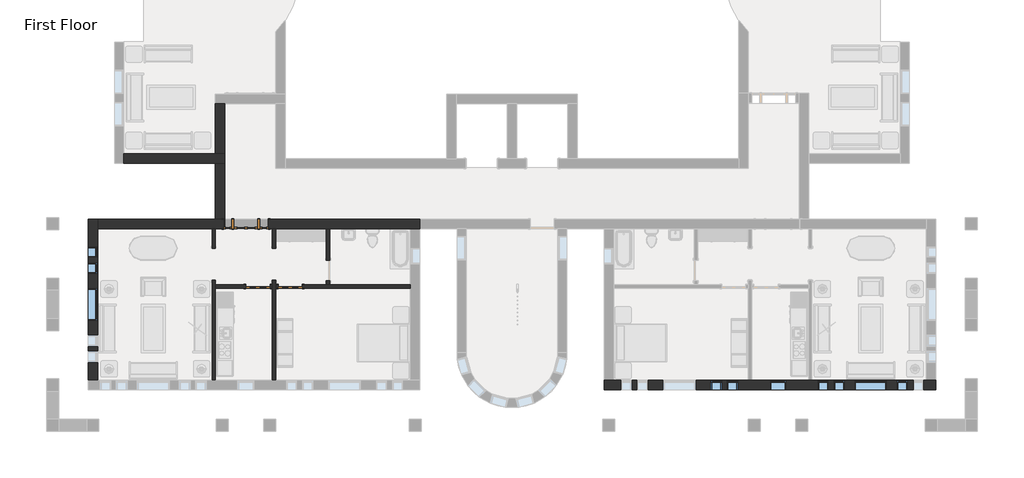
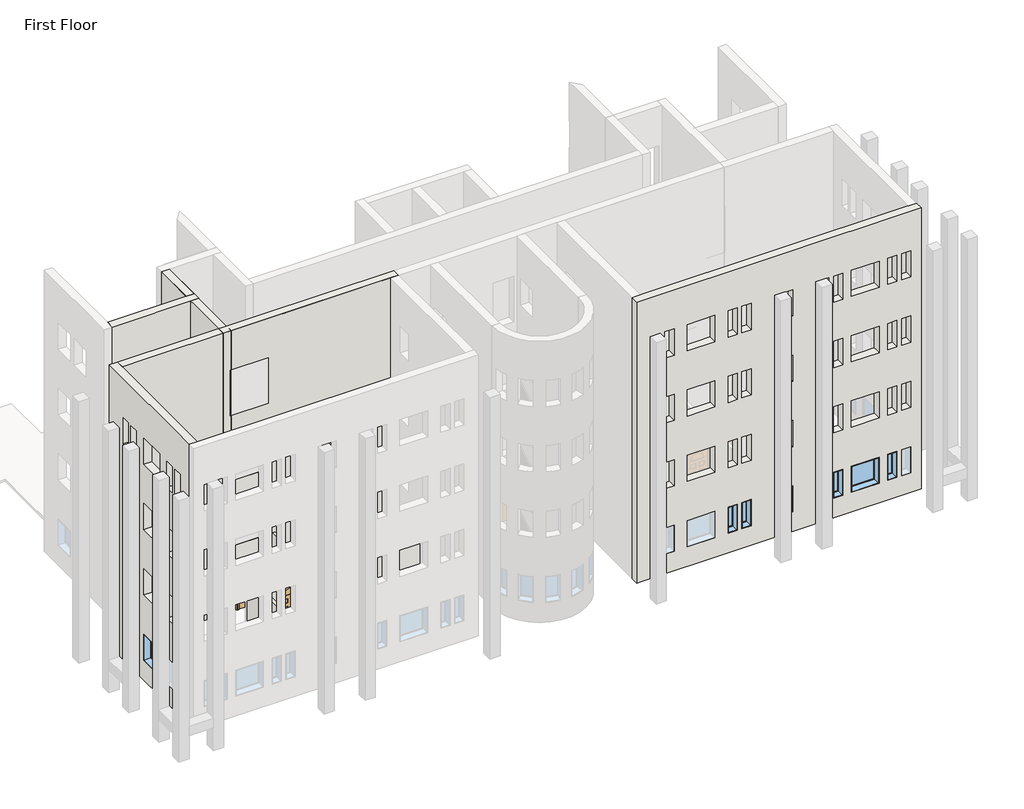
# One storey, part 3 of 21: 11 walls, 10 windows, 3 doors.
"""IFC4 building model written with IfcOpenShell, lengths in millimetres."""

from ifc_helpers import new_model, si_unit, frame, origin, origin_with_axes, place, context, project, spatial, polyline, outline, extrude, faceted_brep, transform, mapped, element, save
from components import door_829da954, door_2e3b4da2, door_dba5aa2e, window_da97879f, window_d61ef850, window_ed80354a, window_6eb97611, window_d89bf842

model = new_model("IFC4")

# Units and contexts
model_context = context("Model", 3, world=origin())
ifc_project = project(units=[si_unit("LENGTHUNIT", "METRE", prefix="MILLI")], contexts=[model_context])

# Site, building, storey
site = spatial("IfcSite", under=ifc_project)
building = spatial("IfcBuilding", under=site)
storey = spatial("IfcBuildingStorey", under=building, Name="First Floor", Elevation=0.0)

# Doors
placement = place(None, origin())
door_shape = door_829da954(model_context)
element("IfcDoor", 1, ObjectType="Single-Decorative 2 : 36\" x 84\"", at=placement, inside=storey, context=model_context, shape_type="MappedRepresentation", body=[
    mapped(door_shape, transform((-24674.4839563, -30414.4308133, 0.0), x_axis=(1.0, 0.0, 0.0), y_axis=(0.0, 1.0, 0.0), z_axis=(0.0, 0.0, 1.0))),
])
door_2_shape = door_2e3b4da2(model_context)
element("IfcDoor", 2, ObjectType="Single-Decorative 2 : 36\" x 84\"", at=placement, inside=storey, context=model_context, shape_type="MappedRepresentation", body=[
    mapped(door_2_shape, transform((-23455.2839563, -30414.4308133, 0.0), x_axis=(-1.0, 0.0, 0.0), y_axis=(0.0, -1.0, 0.0), z_axis=(0.0, 0.0, 1.0))),
])
door_3_shape = door_dba5aa2e(model_context)
element("IfcDoor", 3, ObjectType="Single-Raised Panel with Sidelights : 36\" x 84\"", at=placement, inside=storey, context=model_context, shape_type="MappedRepresentation", body=[
    mapped(door_3_shape, transform((-25131.6839563, -28041.1183133, 0.0), x_axis=(1.0, 0.0, 0.0), y_axis=(0.0, 1.0, 0.0), z_axis=(0.0, 0.0, 1.0))),
])

# Walls
element("IfcWall", 4, ObjectType="Exterior - Brick on Mtl. Stud", at=placement, inside=storey, context=model_context, shape_type="Brep", body=[
    faceted_brep([(-11569.6714563, -34313.3308133, 0.0), (-11382.3464563, -34313.3308133, 0.0), (787.4285437, -34313.3308133, 0.0), (974.7535437, -34313.3308133, 0.0), (974.7535437, -34313.3308133, 13106.4), (-11569.6714563, -34313.3308133, 13106.4), (-90.4589563, -34313.3308133, 8229.6), (-90.4589563, -34313.3308133, 7010.4), (-496.8589563, -34313.3308133, 7010.4), (-496.8589563, -34313.3308133, 8229.6), (519.1410437, -34313.3308133, 8229.6), (519.1410437, -34313.3308133, 7010.4), (112.7410437, -34313.3308133, 7010.4), (112.7410437, -34313.3308133, 8229.6), (-2884.4589563, -34313.3308133, 8229.6), (-2478.0589563, -34313.3308133, 8229.6), (-2478.0589563, -34313.3308133, 7010.4), (-2884.4589563, -34313.3308133, 7010.4), (-3494.0589563, -34313.3308133, 8229.6), (-3087.6589563, -34313.3308133, 8229.6), (-3087.6589563, -34313.3308133, 7010.4), (-3494.0589563, -34313.3308133, 7010.4), (-7126.2589563, -34313.3308133, 8229.6), (-7126.2589563, -34313.3308133, 7010.4), (-7532.6589563, -34313.3308133, 7010.4), (-7532.6589563, -34313.3308133, 8229.6), (-6516.6589563, -34313.3308133, 8229.6), (-6516.6589563, -34313.3308133, 7010.4), (-6923.0589563, -34313.3308133, 7010.4), (-6923.0589563, -34313.3308133, 8229.6), (-10326.6589563, -34313.3308133, 8229.6), (-9920.2589563, -34313.3308133, 8229.6), (-9920.2589563, -34313.3308133, 7010.4), (-10326.6589563, -34313.3308133, 7010.4), (-10936.2589563, -34313.3308133, 8229.6), (-10529.8589563, -34313.3308133, 8229.6), (-10529.8589563, -34313.3308133, 7010.4), (-10936.2589563, -34313.3308133, 7010.4), (-2097.0589563, -34313.3308133, 8229.6), (-877.8589563, -34313.3308133, 8229.6), (-877.8589563, -34313.3308133, 7010.4), (-2097.0589563, -34313.3308133, 7010.4), (-9336.0589563, -34313.3308133, 8229.6), (-8116.8589563, -34313.3308133, 8229.6), (-8116.8589563, -34313.3308133, 7010.4), (-9336.0589563, -34313.3308133, 7010.4), (-5297.4589563, -34313.3308133, 8229.6), (-4687.8589563, -34313.3308133, 8229.6), (-4687.8589563, -34313.3308133, 7010.4), (-5297.4589563, -34313.3308133, 7010.4), (-90.4589563, -34313.3308133, 5181.6), (-90.4589563, -34313.3308133, 3962.4), (-496.8589563, -34313.3308133, 3962.4), (-496.8589563, -34313.3308133, 5181.6), (519.1410437, -34313.3308133, 5181.6), (519.1410437, -34313.3308133, 3962.4), (112.7410437, -34313.3308133, 3962.4), (112.7410437, -34313.3308133, 5181.6), (-2884.4589563, -34313.3308133, 5181.6), (-2478.0589563, -34313.3308133, 5181.6), (-2478.0589563, -34313.3308133, 3962.4), (-2884.4589563, -34313.3308133, 3962.4), (-3494.0589563, -34313.3308133, 5181.6), (-3087.6589563, -34313.3308133, 5181.6), (-3087.6589563, -34313.3308133, 3962.4), (-3494.0589563, -34313.3308133, 3962.4), (-7126.2589563, -34313.3308133, 5181.6), (-7126.2589563, -34313.3308133, 3962.4), (-7532.6589563, -34313.3308133, 3962.4), (-7532.6589563, -34313.3308133, 5181.6), (-6516.6589563, -34313.3308133, 5181.6), (-6516.6589563, -34313.3308133, 3962.4), (-6923.0589563, -34313.3308133, 3962.4), (-6923.0589563, -34313.3308133, 5181.6), (-10326.6589563, -34313.3308133, 5181.6), (-9920.2589563, -34313.3308133, 5181.6), (-9920.2589563, -34313.3308133, 3962.4), (-10326.6589563, -34313.3308133, 3962.4), (-10936.2589563, -34313.3308133, 5181.6), (-10529.8589563, -34313.3308133, 5181.6), (-10529.8589563, -34313.3308133, 3962.4), (-10936.2589563, -34313.3308133, 3962.4), (-2097.0589563, -34313.3308133, 5181.6), (-877.8589563, -34313.3308133, 5181.6), (-877.8589563, -34313.3308133, 3962.4), (-2097.0589563, -34313.3308133, 3962.4), (-9336.0589563, -34313.3308133, 5181.6), (-8116.8589563, -34313.3308133, 5181.6), (-8116.8589563, -34313.3308133, 3962.4), (-9336.0589563, -34313.3308133, 3962.4), (-5297.4589563, -34313.3308133, 5181.6), (-4687.8589563, -34313.3308133, 5181.6), (-4687.8589563, -34313.3308133, 3962.4), (-5297.4589563, -34313.3308133, 3962.4), (-90.4589563, -34313.3308133, 11277.6), (-90.4589563, -34313.3308133, 10058.4), (-496.8589563, -34313.3308133, 10058.4), (-496.8589563, -34313.3308133, 11277.6), (519.1410437, -34313.3308133, 11277.6), (519.1410437, -34313.3308133, 10058.4), (112.7410437, -34313.3308133, 10058.4), (112.7410437, -34313.3308133, 11277.6), (-2884.4589563, -34313.3308133, 11277.6), (-2478.0589563, -34313.3308133, 11277.6), (-2478.0589563, -34313.3308133, 10058.4), (-2884.4589563, -34313.3308133, 10058.4), (-3494.0589563, -34313.3308133, 11277.6), (-3087.6589563, -34313.3308133, 11277.6), (-3087.6589563, -34313.3308133, 10058.4), (-3494.0589563, -34313.3308133, 10058.4), (-7126.2589563, -34313.3308133, 11277.6), (-7126.2589563, -34313.3308133, 10058.4), (-7532.6589563, -34313.3308133, 10058.4), (-7532.6589563, -34313.3308133, 11277.6), (-6516.6589563, -34313.3308133, 11277.6), (-6516.6589563, -34313.3308133, 10058.4), (-6923.0589563, -34313.3308133, 10058.4), (-6923.0589563, -34313.3308133, 11277.6), (-10326.6589563, -34313.3308133, 11277.6), (-9920.2589563, -34313.3308133, 11277.6), (-9920.2589563, -34313.3308133, 10058.4), (-10326.6589563, -34313.3308133, 10058.4), (-10936.2589563, -34313.3308133, 11277.6), (-10529.8589563, -34313.3308133, 11277.6), (-10529.8589563, -34313.3308133, 10058.4), (-10936.2589563, -34313.3308133, 10058.4), (-2097.0589563, -34313.3308133, 11277.6), (-877.8589563, -34313.3308133, 11277.6), (-877.8589563, -34313.3308133, 10058.4), (-2097.0589563, -34313.3308133, 10058.4), (-9336.0589563, -34313.3308133, 11277.6), (-8116.8589563, -34313.3308133, 11277.6), (-8116.8589563, -34313.3308133, 10058.4), (-9336.0589563, -34313.3308133, 10058.4), (-5297.4589563, -34313.3308133, 11277.6), (-4687.8589563, -34313.3308133, 11277.6), (-4687.8589563, -34313.3308133, 10058.4), (-5297.4589563, -34313.3308133, 10058.4), (-90.4589563, -34313.3308133, 2133.6), (-90.4589563, -34313.3308133, 914.4), (-496.8589563, -34313.3308133, 914.4), (-496.8589563, -34313.3308133, 2133.6), (519.1410437, -34313.3308133, 2133.6), (519.1410437, -34313.3308133, 914.4), (112.7410437, -34313.3308133, 914.4), (112.7410437, -34313.3308133, 2133.6), (-2884.4589563, -34313.3308133, 2133.6), (-2478.0589563, -34313.3308133, 2133.6), (-2478.0589563, -34313.3308133, 914.4), (-2884.4589563, -34313.3308133, 914.4), (-3494.0589563, -34313.3308133, 2133.6), (-3087.6589563, -34313.3308133, 2133.6), (-3087.6589563, -34313.3308133, 914.4), (-3494.0589563, -34313.3308133, 914.4), (-7126.2589563, -34313.3308133, 2133.6), (-7126.2589563, -34313.3308133, 914.4), (-7532.6589563, -34313.3308133, 914.4), (-7532.6589563, -34313.3308133, 2133.6), (-6516.6589563, -34313.3308133, 2133.6), (-6516.6589563, -34313.3308133, 914.4), (-6923.0589563, -34313.3308133, 914.4), (-6923.0589563, -34313.3308133, 2133.6), (-10326.6589563, -34313.3308133, 2133.6), (-9920.2589563, -34313.3308133, 2133.6), (-9920.2589563, -34313.3308133, 914.4), (-10326.6589563, -34313.3308133, 914.4), (-10936.2589563, -34313.3308133, 2133.6), (-10529.8589563, -34313.3308133, 2133.6), (-10529.8589563, -34313.3308133, 914.4), (-10936.2589563, -34313.3308133, 914.4), (-2097.0589563, -34313.3308133, 2133.6), (-877.8589563, -34313.3308133, 2133.6), (-877.8589563, -34313.3308133, 914.4), (-2097.0589563, -34313.3308133, 914.4), (-9336.0589563, -34313.3308133, 2133.6), (-8116.8589563, -34313.3308133, 2133.6), (-8116.8589563, -34313.3308133, 914.4), (-9336.0589563, -34313.3308133, 914.4), (-5297.4589563, -34313.3308133, 2133.6), (-4687.8589563, -34313.3308133, 2133.6), (-4687.8589563, -34313.3308133, 914.4), (-5297.4589563, -34313.3308133, 914.4), (-11569.6714563, -33960.9058133, 0.0), (-11569.6714563, -33960.9058133, 13106.4), (-11217.2464563, -33960.9058133, 13106.4), (622.3285437, -33960.9058133, 13106.4), (974.7535437, -33960.9058133, 13106.4), (974.7535437, -33960.9058133, 0.0), (787.4285437, -33960.9058133, 0.0), (622.3285437, -33960.9058133, 0.0), (-3709.9589563, -33960.9058133, 0.0), (-3836.9589563, -33960.9058133, 0.0), (-5995.9589563, -33960.9058133, 0.0), (-6122.9589563, -33960.9058133, 0.0), (-11217.2464563, -33960.9058133, 0.0), (-11382.3464563, -33960.9058133, 0.0), (-90.4589563, -33960.9058133, 8229.6), (-496.8589563, -33960.9058133, 8229.6), (-496.8589563, -33960.9058133, 7010.4), (-90.4589563, -33960.9058133, 7010.4), (519.1410437, -33960.9058133, 8229.6), (112.7410437, -33960.9058133, 8229.6), (112.7410437, -33960.9058133, 7010.4), (519.1410437, -33960.9058133, 7010.4), (-2884.4589563, -33960.9058133, 8229.6), (-2884.4589563, -33960.9058133, 7010.4), (-2478.0589563, -33960.9058133, 7010.4), (-2478.0589563, -33960.9058133, 8229.6), (-3494.0589563, -33960.9058133, 8229.6), (-3494.0589563, -33960.9058133, 7010.4), (-3087.6589563, -33960.9058133, 7010.4), (-3087.6589563, -33960.9058133, 8229.6), (-7126.2589563, -33960.9058133, 8229.6), (-7532.6589563, -33960.9058133, 8229.6), (-7532.6589563, -33960.9058133, 7010.4), (-7126.2589563, -33960.9058133, 7010.4), (-6516.6589563, -33960.9058133, 8229.6), (-6923.0589563, -33960.9058133, 8229.6), (-6923.0589563, -33960.9058133, 7010.4), (-6516.6589563, -33960.9058133, 7010.4), (-10326.6589563, -33960.9058133, 8229.6), (-10326.6589563, -33960.9058133, 7010.4), (-9920.2589563, -33960.9058133, 7010.4), (-9920.2589563, -33960.9058133, 8229.6), (-10936.2589563, -33960.9058133, 8229.6), (-10936.2589563, -33960.9058133, 7010.4), (-10529.8589563, -33960.9058133, 7010.4), (-10529.8589563, -33960.9058133, 8229.6), (-2097.0589563, -33960.9058133, 8229.6), (-2097.0589563, -33960.9058133, 7010.4), (-877.8589563, -33960.9058133, 7010.4), (-877.8589563, -33960.9058133, 8229.6), (-9336.0589563, -33960.9058133, 8229.6), (-9336.0589563, -33960.9058133, 7010.4), (-8116.8589563, -33960.9058133, 7010.4), (-8116.8589563, -33960.9058133, 8229.6), (-5297.4589563, -33960.9058133, 8229.6), (-5297.4589563, -33960.9058133, 7010.4), (-4687.8589563, -33960.9058133, 7010.4), (-4687.8589563, -33960.9058133, 8229.6), (-90.4589563, -33960.9058133, 5181.6), (-496.8589563, -33960.9058133, 5181.6), (-496.8589563, -33960.9058133, 3962.4), (-90.4589563, -33960.9058133, 3962.4), (519.1410437, -33960.9058133, 5181.6), (112.7410437, -33960.9058133, 5181.6), (112.7410437, -33960.9058133, 3962.4), (519.1410437, -33960.9058133, 3962.4), (-2884.4589563, -33960.9058133, 5181.6), (-2884.4589563, -33960.9058133, 3962.4), (-2478.0589563, -33960.9058133, 3962.4), (-2478.0589563, -33960.9058133, 5181.6), (-3494.0589563, -33960.9058133, 5181.6), (-3494.0589563, -33960.9058133, 3962.4), (-3087.6589563, -33960.9058133, 3962.4), (-3087.6589563, -33960.9058133, 5181.6), (-7126.2589563, -33960.9058133, 5181.6), (-7532.6589563, -33960.9058133, 5181.6), (-7532.6589563, -33960.9058133, 3962.4), (-7126.2589563, -33960.9058133, 3962.4), (-6516.6589563, -33960.9058133, 5181.6), (-6923.0589563, -33960.9058133, 5181.6), (-6923.0589563, -33960.9058133, 3962.4), (-6516.6589563, -33960.9058133, 3962.4), (-10326.6589563, -33960.9058133, 5181.6), (-10326.6589563, -33960.9058133, 3962.4), (-9920.2589563, -33960.9058133, 3962.4), (-9920.2589563, -33960.9058133, 5181.6), (-10936.2589563, -33960.9058133, 5181.6), (-10936.2589563, -33960.9058133, 3962.4), (-10529.8589563, -33960.9058133, 3962.4), (-10529.8589563, -33960.9058133, 5181.6), (-2097.0589563, -33960.9058133, 5181.6), (-2097.0589563, -33960.9058133, 3962.4), (-877.8589563, -33960.9058133, 3962.4), (-877.8589563, -33960.9058133, 5181.6), (-9336.0589563, -33960.9058133, 5181.6), (-9336.0589563, -33960.9058133, 3962.4), (-8116.8589563, -33960.9058133, 3962.4), (-8116.8589563, -33960.9058133, 5181.6), (-5297.4589563, -33960.9058133, 5181.6), (-5297.4589563, -33960.9058133, 3962.4), (-4687.8589563, -33960.9058133, 3962.4), (-4687.8589563, -33960.9058133, 5181.6), (-90.4589563, -33960.9058133, 11277.6), (-496.8589563, -33960.9058133, 11277.6), (-496.8589563, -33960.9058133, 10058.4), (-90.4589563, -33960.9058133, 10058.4), (519.1410437, -33960.9058133, 11277.6), (112.7410437, -33960.9058133, 11277.6), (112.7410437, -33960.9058133, 10058.4), (519.1410437, -33960.9058133, 10058.4), (-2884.4589563, -33960.9058133, 11277.6), (-2884.4589563, -33960.9058133, 10058.4), (-2478.0589563, -33960.9058133, 10058.4), (-2478.0589563, -33960.9058133, 11277.6), (-3494.0589563, -33960.9058133, 11277.6), (-3494.0589563, -33960.9058133, 10058.4), (-3087.6589563, -33960.9058133, 10058.4), (-3087.6589563, -33960.9058133, 11277.6), (-7126.2589563, -33960.9058133, 11277.6), (-7532.6589563, -33960.9058133, 11277.6), (-7532.6589563, -33960.9058133, 10058.4), (-7126.2589563, -33960.9058133, 10058.4), (-6516.6589563, -33960.9058133, 11277.6), (-6923.0589563, -33960.9058133, 11277.6), (-6923.0589563, -33960.9058133, 10058.4), (-6516.6589563, -33960.9058133, 10058.4), (-10326.6589563, -33960.9058133, 11277.6), (-10326.6589563, -33960.9058133, 10058.4), (-9920.2589563, -33960.9058133, 10058.4), (-9920.2589563, -33960.9058133, 11277.6), (-10936.2589563, -33960.9058133, 11277.6), (-10936.2589563, -33960.9058133, 10058.4), (-10529.8589563, -33960.9058133, 10058.4), (-10529.8589563, -33960.9058133, 11277.6), (-2097.0589563, -33960.9058133, 11277.6), (-2097.0589563, -33960.9058133, 10058.4), (-877.8589563, -33960.9058133, 10058.4), (-877.8589563, -33960.9058133, 11277.6), (-9336.0589563, -33960.9058133, 11277.6), (-9336.0589563, -33960.9058133, 10058.4), (-8116.8589563, -33960.9058133, 10058.4), (-8116.8589563, -33960.9058133, 11277.6), (-5297.4589563, -33960.9058133, 11277.6), (-5297.4589563, -33960.9058133, 10058.4), (-4687.8589563, -33960.9058133, 10058.4), (-4687.8589563, -33960.9058133, 11277.6), (-90.4589563, -33960.9058133, 2133.6), (-496.8589563, -33960.9058133, 2133.6), (-496.8589563, -33960.9058133, 914.4), (-90.4589563, -33960.9058133, 914.4), (519.1410437, -33960.9058133, 2133.6), (112.7410437, -33960.9058133, 2133.6), (112.7410437, -33960.9058133, 914.4), (519.1410437, -33960.9058133, 914.4), (-2884.4589563, -33960.9058133, 2133.6), (-2884.4589563, -33960.9058133, 914.4), (-2478.0589563, -33960.9058133, 914.4), (-2478.0589563, -33960.9058133, 2133.6), (-3494.0589563, -33960.9058133, 2133.6), (-3494.0589563, -33960.9058133, 914.4), (-3087.6589563, -33960.9058133, 914.4), (-3087.6589563, -33960.9058133, 2133.6), (-7126.2589563, -33960.9058133, 2133.6), (-7532.6589563, -33960.9058133, 2133.6), (-7532.6589563, -33960.9058133, 914.4), (-7126.2589563, -33960.9058133, 914.4), (-6516.6589563, -33960.9058133, 2133.6), (-6923.0589563, -33960.9058133, 2133.6), (-6923.0589563, -33960.9058133, 914.4), (-6516.6589563, -33960.9058133, 914.4), (-10326.6589563, -33960.9058133, 2133.6), (-10326.6589563, -33960.9058133, 914.4), (-9920.2589563, -33960.9058133, 914.4), (-9920.2589563, -33960.9058133, 2133.6), (-10936.2589563, -33960.9058133, 2133.6), (-10936.2589563, -33960.9058133, 914.4), (-10529.8589563, -33960.9058133, 914.4), (-10529.8589563, -33960.9058133, 2133.6), (-2097.0589563, -33960.9058133, 2133.6), (-2097.0589563, -33960.9058133, 914.4), (-877.8589563, -33960.9058133, 914.4), (-877.8589563, -33960.9058133, 2133.6), (-9336.0589563, -33960.9058133, 2133.6), (-9336.0589563, -33960.9058133, 914.4), (-8116.8589563, -33960.9058133, 914.4), (-8116.8589563, -33960.9058133, 2133.6), (-5297.4589563, -33960.9058133, 2133.6), (-5297.4589563, -33960.9058133, 914.4), (-4687.8589563, -33960.9058133, 914.4), (-4687.8589563, -33960.9058133, 2133.6), (974.7535437, -34126.0058133, 0.0), (-11569.6714563, -34126.0058133, 0.0), (-11382.3464563, -34126.0058133, 0.0), (787.4285437, -34126.0058133, 0.0)], [[[0, 1, 2, 3, 4, 5], [6, 7, 8, 9], [10, 11, 12, 13], [14, 15, 16, 17], [18, 19, 20, 21], [22, 23, 24, 25], [26, 27, 28, 29], [30, 31, 32, 33], [34, 35, 36, 37], [38, 39, 40, 41], [42, 43, 44, 45], [46, 47, 48, 49], [50, 51, 52, 53], [54, 55, 56, 57], [58, 59, 60, 61], [62, 63, 64, 65], [66, 67, 68, 69], [70, 71, 72, 73], [74, 75, 76, 77], [78, 79, 80, 81], [82, 83, 84, 85], [86, 87, 88, 89], [90, 91, 92, 93], [94, 95, 96, 97], [98, 99, 100, 101], [102, 103, 104, 105], [106, 107, 108, 109], [110, 111, 112, 113], [114, 115, 116, 117], [118, 119, 120, 121], [122, 123, 124, 125], [126, 127, 128, 129], [130, 131, 132, 133], [134, 135, 136, 137], [138, 139, 140, 141], [142, 143, 144, 145], [146, 147, 148, 149], [150, 151, 152, 153], [154, 155, 156, 157], [158, 159, 160, 161], [162, 163, 164, 165], [166, 167, 168, 169], [170, 171, 172, 173], [174, 175, 176, 177], [178, 179, 180, 181]], [[182, 183, 184, 185, 186, 187, 188, 189, 190, 191, 192, 193, 194, 195], [196, 197, 198, 199], [200, 201, 202, 203], [204, 205, 206, 207], [208, 209, 210, 211], [212, 213, 214, 215], [216, 217, 218, 219], [220, 221, 222, 223], [224, 225, 226, 227], [228, 229, 230, 231], [232, 233, 234, 235], [236, 237, 238, 239], [240, 241, 242, 243], [244, 245, 246, 247], [248, 249, 250, 251], [252, 253, 254, 255], [256, 257, 258, 259], [260, 261, 262, 263], [264, 265, 266, 267], [268, 269, 270, 271], [272, 273, 274, 275], [276, 277, 278, 279], [280, 281, 282, 283], [284, 285, 286, 287], [288, 289, 290, 291], [292, 293, 294, 295], [296, 297, 298, 299], [300, 301, 302, 303], [304, 305, 306, 307], [308, 309, 310, 311], [312, 313, 314, 315], [316, 317, 318, 319], [320, 321, 322, 323], [324, 325, 326, 327], [328, 329, 330, 331], [332, 333, 334, 335], [336, 337, 338, 339], [340, 341, 342, 343], [344, 345, 346, 347], [348, 349, 350, 351], [352, 353, 354, 355], [356, 357, 358, 359], [360, 361, 362, 363], [364, 365, 366, 367], [368, 369, 370, 371]], [[5, 4, 186, 185, 184, 183]], [[4, 3, 372, 187, 186]], [[0, 5, 183, 182, 373]], [[2, 1, 374, 375]], [[373, 182, 195, 374]], [[1, 0, 373, 374]], [[375, 188, 187, 372]], [[3, 2, 375, 372]], [[374, 195, 194, 193, 192, 191, 190, 189, 188, 375]], [[7, 6, 196, 199]], [[8, 7, 199, 198]], [[9, 8, 198, 197]], [[6, 9, 197, 196]], [[11, 10, 200, 203]], [[12, 11, 203, 202]], [[13, 12, 202, 201]], [[10, 13, 201, 200]], [[205, 204, 14, 17]], [[206, 205, 17, 16]], [[207, 206, 16, 15]], [[204, 207, 15, 14]], [[209, 208, 18, 21]], [[210, 209, 21, 20]], [[211, 210, 20, 19]], [[208, 211, 19, 18]], [[23, 22, 212, 215]], [[24, 23, 215, 214]], [[25, 24, 214, 213]], [[22, 25, 213, 212]], [[27, 26, 216, 219]], [[28, 27, 219, 218]], [[29, 28, 218, 217]], [[26, 29, 217, 216]], [[221, 220, 30, 33]], [[222, 221, 33, 32]], [[223, 222, 32, 31]], [[220, 223, 31, 30]], [[225, 224, 34, 37]], [[226, 225, 37, 36]], [[227, 226, 36, 35]], [[224, 227, 35, 34]], [[229, 228, 38, 41]], [[230, 229, 41, 40]], [[231, 230, 40, 39]], [[228, 231, 39, 38]], [[233, 232, 42, 45]], [[234, 233, 45, 44]], [[235, 234, 44, 43]], [[232, 235, 43, 42]], [[237, 236, 46, 49]], [[238, 237, 49, 48]], [[239, 238, 48, 47]], [[236, 239, 47, 46]], [[51, 50, 240, 243]], [[52, 51, 243, 242]], [[53, 52, 242, 241]], [[50, 53, 241, 240]], [[55, 54, 244, 247]], [[56, 55, 247, 246]], [[57, 56, 246, 245]], [[54, 57, 245, 244]], [[249, 248, 58, 61]], [[250, 249, 61, 60]], [[251, 250, 60, 59]], [[248, 251, 59, 58]], [[253, 252, 62, 65]], [[254, 253, 65, 64]], [[255, 254, 64, 63]], [[252, 255, 63, 62]], [[67, 66, 256, 259]], [[68, 67, 259, 258]], [[69, 68, 258, 257]], [[66, 69, 257, 256]], [[71, 70, 260, 263]], [[72, 71, 263, 262]], [[73, 72, 262, 261]], [[70, 73, 261, 260]], [[265, 264, 74, 77]], [[266, 265, 77, 76]], [[267, 266, 76, 75]], [[264, 267, 75, 74]], [[269, 268, 78, 81]], [[270, 269, 81, 80]], [[271, 270, 80, 79]], [[268, 271, 79, 78]], [[273, 272, 82, 85]], [[274, 273, 85, 84]], [[275, 274, 84, 83]], [[272, 275, 83, 82]], [[277, 276, 86, 89]], [[278, 277, 89, 88]], [[279, 278, 88, 87]], [[276, 279, 87, 86]], [[281, 280, 90, 93]], [[282, 281, 93, 92]], [[283, 282, 92, 91]], [[280, 283, 91, 90]], [[95, 94, 284, 287]], [[96, 95, 287, 286]], [[97, 96, 286, 285]], [[94, 97, 285, 284]], [[99, 98, 288, 291]], [[100, 99, 291, 290]], [[101, 100, 290, 289]], [[98, 101, 289, 288]], [[293, 292, 102, 105]], [[294, 293, 105, 104]], [[295, 294, 104, 103]], [[292, 295, 103, 102]], [[297, 296, 106, 109]], [[298, 297, 109, 108]], [[299, 298, 108, 107]], [[296, 299, 107, 106]], [[111, 110, 300, 303]], [[112, 111, 303, 302]], [[113, 112, 302, 301]], [[110, 113, 301, 300]], [[115, 114, 304, 307]], [[116, 115, 307, 306]], [[117, 116, 306, 305]], [[114, 117, 305, 304]], [[309, 308, 118, 121]], [[310, 309, 121, 120]], [[311, 310, 120, 119]], [[308, 311, 119, 118]], [[313, 312, 122, 125]], [[314, 313, 125, 124]], [[315, 314, 124, 123]], [[312, 315, 123, 122]], [[317, 316, 126, 129]], [[318, 317, 129, 128]], [[319, 318, 128, 127]], [[316, 319, 127, 126]], [[321, 320, 130, 133]], [[322, 321, 133, 132]], [[323, 322, 132, 131]], [[320, 323, 131, 130]], [[325, 324, 134, 137]], [[326, 325, 137, 136]], [[327, 326, 136, 135]], [[324, 327, 135, 134]], [[139, 138, 328, 331]], [[140, 139, 331, 330]], [[141, 140, 330, 329]], [[138, 141, 329, 328]], [[143, 142, 332, 335]], [[144, 143, 335, 334]], [[145, 144, 334, 333]], [[142, 145, 333, 332]], [[337, 336, 146, 149]], [[338, 337, 149, 148]], [[339, 338, 148, 147]], [[336, 339, 147, 146]], [[341, 340, 150, 153]], [[342, 341, 153, 152]], [[343, 342, 152, 151]], [[340, 343, 151, 150]], [[155, 154, 344, 347]], [[156, 155, 347, 346]], [[157, 156, 346, 345]], [[154, 157, 345, 344]], [[159, 158, 348, 351]], [[160, 159, 351, 350]], [[161, 160, 350, 349]], [[158, 161, 349, 348]], [[353, 352, 162, 165]], [[354, 353, 165, 164]], [[355, 354, 164, 163]], [[352, 355, 163, 162]], [[357, 356, 166, 169]], [[358, 357, 169, 168]], [[359, 358, 168, 167]], [[356, 359, 167, 166]], [[361, 360, 170, 173]], [[362, 361, 173, 172]], [[363, 362, 172, 171]], [[360, 363, 171, 170]], [[365, 364, 174, 177]], [[366, 365, 177, 176]], [[367, 366, 176, 175]], [[364, 367, 175, 174]], [[369, 368, 178, 181]], [[370, 369, 181, 180]], [[371, 370, 180, 179]], [[368, 371, 179, 178]]]),
])
element("IfcWall", 5, ObjectType="Exterior - Brick on Mtl. Stud", at=placement, inside=storey, context=model_context, shape_type="Brep", body=[
    faceted_brep([(-26287.3839563, -23492.9308133, 0.0), (-26287.3839563, -28217.3308133, 0.0), (-26287.3839563, -28217.3308133, 13106.4), (-26287.3839563, -23492.9308133, 13106.4), (-25934.9589563, -23492.9308133, 0.0), (-25934.9589563, -23492.9308133, 13106.4), (-25934.9589563, -27864.9058133, 13106.4), (-25934.9589563, -28217.3308133, 13106.4), (-25934.9589563, -28217.3308133, 0.0), (-25934.9589563, -27864.9058133, 0.0)], [[[0, 1, 2, 3]], [[4, 5, 6, 7, 8, 9]], [[1, 0, 4, 9, 8]], [[3, 2, 7, 6, 5]], [[2, 1, 8, 7]], [[0, 3, 5, 4]]]),
])
element("IfcWall", 6, ObjectType="Exterior - Brick on Mtl. Stud", at=placement, inside=storey, context=model_context, shape_type="Brep", body=[
    faceted_brep([(-30746.6714563, -33960.9058133, 0.0), (-30746.6714563, -28217.3308133, 0.0), (-30746.6714563, -28052.2308133, 0.0), (-30746.6714563, -27864.9058133, 0.0), (-30746.6714563, -27864.9058133, 13106.4), (-30746.6714563, -28217.3308133, 13106.4), (-30746.6714563, -33960.9058133, 13106.4), (-30746.6714563, -29514.3183133, 8229.6), (-30746.6714563, -29514.3183133, 7010.4), (-30746.6714563, -29920.7183133, 7010.4), (-30746.6714563, -29920.7183133, 8229.6), (-30746.6714563, -28904.7183133, 8229.6), (-30746.6714563, -28904.7183133, 7010.4), (-30746.6714563, -29311.1183133, 7010.4), (-30746.6714563, -29311.1183133, 8229.6), (-30746.6714563, -32663.9183133, 8229.6), (-30746.6714563, -32257.5183133, 8229.6), (-30746.6714563, -32257.5183133, 7010.4), (-30746.6714563, -32663.9183133, 7010.4), (-30746.6714563, -33273.5183133, 8229.6), (-30746.6714563, -32867.1183133, 8229.6), (-30746.6714563, -32867.1183133, 7010.4), (-30746.6714563, -33273.5183133, 7010.4), (-30746.6714563, -31698.7183133, 8229.6), (-30746.6714563, -30479.5183133, 8229.6), (-30746.6714563, -30479.5183133, 7010.4), (-30746.6714563, -31698.7183133, 7010.4), (-30746.6714563, -29514.3183133, 5181.6), (-30746.6714563, -29514.3183133, 3962.4), (-30746.6714563, -29920.7183133, 3962.4), (-30746.6714563, -29920.7183133, 5181.6), (-30746.6714563, -28904.7183133, 5181.6), (-30746.6714563, -28904.7183133, 3962.4), (-30746.6714563, -29311.1183133, 3962.4), (-30746.6714563, -29311.1183133, 5181.6), (-30746.6714563, -32663.9183133, 5181.6), (-30746.6714563, -32257.5183133, 5181.6), (-30746.6714563, -32257.5183133, 3962.4), (-30746.6714563, -32663.9183133, 3962.4), (-30746.6714563, -33273.5183133, 5181.6), (-30746.6714563, -32867.1183133, 5181.6), (-30746.6714563, -32867.1183133, 3962.4), (-30746.6714563, -33273.5183133, 3962.4), (-30746.6714563, -31698.7183133, 5181.6), (-30746.6714563, -30479.5183133, 5181.6), (-30746.6714563, -30479.5183133, 3962.4), (-30746.6714563, -31698.7183133, 3962.4), (-30746.6714563, -29514.3183133, 11277.6), (-30746.6714563, -29514.3183133, 10058.4), (-30746.6714563, -29920.7183133, 10058.4), (-30746.6714563, -29920.7183133, 11277.6), (-30746.6714563, -28904.7183133, 11277.6), (-30746.6714563, -28904.7183133, 10058.4), (-30746.6714563, -29311.1183133, 10058.4), (-30746.6714563, -29311.1183133, 11277.6), (-30746.6714563, -32663.9183133, 11277.6), (-30746.6714563, -32257.5183133, 11277.6), (-30746.6714563, -32257.5183133, 10058.4), (-30746.6714563, -32663.9183133, 10058.4), (-30746.6714563, -33273.5183133, 11277.6), (-30746.6714563, -32867.1183133, 11277.6), (-30746.6714563, -32867.1183133, 10058.4), (-30746.6714563, -33273.5183133, 10058.4), (-30746.6714563, -31698.7183133, 11277.6), (-30746.6714563, -30479.5183133, 11277.6), (-30746.6714563, -30479.5183133, 10058.4), (-30746.6714563, -31698.7183133, 10058.4), (-30746.6714563, -29514.3183133, 2133.6), (-30746.6714563, -29514.3183133, 914.4), (-30746.6714563, -29920.7183133, 914.4), (-30746.6714563, -29920.7183133, 2133.6), (-30746.6714563, -28904.7183133, 2133.6), (-30746.6714563, -28904.7183133, 914.4), (-30746.6714563, -29311.1183133, 914.4), (-30746.6714563, -29311.1183133, 2133.6), (-30746.6714563, -32663.9183133, 2133.6), (-30746.6714563, -32257.5183133, 2133.6), (-30746.6714563, -32257.5183133, 914.4), (-30746.6714563, -32663.9183133, 914.4), (-30746.6714563, -33273.5183133, 2133.6), (-30746.6714563, -32867.1183133, 2133.6), (-30746.6714563, -32867.1183133, 914.4), (-30746.6714563, -33273.5183133, 914.4), (-30746.6714563, -31698.7183133, 2133.6), (-30746.6714563, -30479.5183133, 2133.6), (-30746.6714563, -30479.5183133, 914.4), (-30746.6714563, -31698.7183133, 914.4), (-31099.0964563, -33960.9058133, 0.0), (-31099.0964563, -33960.9058133, 13106.4), (-31099.0964563, -27864.9058133, 13106.4), (-31099.0964563, -27864.9058133, 0.0), (-31099.0964563, -28052.2308133, 0.0), (-31099.0964563, -29514.3183133, 8229.6), (-31099.0964563, -29920.7183133, 8229.6), (-31099.0964563, -29920.7183133, 7010.4), (-31099.0964563, -29514.3183133, 7010.4), (-31099.0964563, -28904.7183133, 8229.6), (-31099.0964563, -29311.1183133, 8229.6), (-31099.0964563, -29311.1183133, 7010.4), (-31099.0964563, -28904.7183133, 7010.4), (-31099.0964563, -32663.9183133, 8229.6), (-31099.0964563, -32663.9183133, 7010.4), (-31099.0964563, -32257.5183133, 7010.4), (-31099.0964563, -32257.5183133, 8229.6), (-31099.0964563, -33273.5183133, 8229.6), (-31099.0964563, -33273.5183133, 7010.4), (-31099.0964563, -32867.1183133, 7010.4), (-31099.0964563, -32867.1183133, 8229.6), (-31099.0964563, -31698.7183133, 8229.6), (-31099.0964563, -31698.7183133, 7010.4), (-31099.0964563, -30479.5183133, 7010.4), (-31099.0964563, -30479.5183133, 8229.6), (-31099.0964563, -29514.3183133, 5181.6), (-31099.0964563, -29920.7183133, 5181.6), (-31099.0964563, -29920.7183133, 3962.4), (-31099.0964563, -29514.3183133, 3962.4), (-31099.0964563, -28904.7183133, 5181.6), (-31099.0964563, -29311.1183133, 5181.6), (-31099.0964563, -29311.1183133, 3962.4), (-31099.0964563, -28904.7183133, 3962.4), (-31099.0964563, -32663.9183133, 5181.6), (-31099.0964563, -32663.9183133, 3962.4), (-31099.0964563, -32257.5183133, 3962.4), (-31099.0964563, -32257.5183133, 5181.6), (-31099.0964563, -33273.5183133, 5181.6), (-31099.0964563, -33273.5183133, 3962.4), (-31099.0964563, -32867.1183133, 3962.4), (-31099.0964563, -32867.1183133, 5181.6), (-31099.0964563, -31698.7183133, 5181.6), (-31099.0964563, -31698.7183133, 3962.4), (-31099.0964563, -30479.5183133, 3962.4), (-31099.0964563, -30479.5183133, 5181.6), (-31099.0964563, -29514.3183133, 11277.6), (-31099.0964563, -29920.7183133, 11277.6), (-31099.0964563, -29920.7183133, 10058.4), (-31099.0964563, -29514.3183133, 10058.4), (-31099.0964563, -28904.7183133, 11277.6), (-31099.0964563, -29311.1183133, 11277.6), (-31099.0964563, -29311.1183133, 10058.4), (-31099.0964563, -28904.7183133, 10058.4), (-31099.0964563, -32663.9183133, 11277.6), (-31099.0964563, -32663.9183133, 10058.4), (-31099.0964563, -32257.5183133, 10058.4), (-31099.0964563, -32257.5183133, 11277.6), (-31099.0964563, -33273.5183133, 11277.6), (-31099.0964563, -33273.5183133, 10058.4), (-31099.0964563, -32867.1183133, 10058.4), (-31099.0964563, -32867.1183133, 11277.6), (-31099.0964563, -31698.7183133, 11277.6), (-31099.0964563, -31698.7183133, 10058.4), (-31099.0964563, -30479.5183133, 10058.4), (-31099.0964563, -30479.5183133, 11277.6), (-31099.0964563, -29514.3183133, 2133.6), (-31099.0964563, -29920.7183133, 2133.6), (-31099.0964563, -29920.7183133, 914.4), (-31099.0964563, -29514.3183133, 914.4), (-31099.0964563, -28904.7183133, 2133.6), (-31099.0964563, -29311.1183133, 2133.6), (-31099.0964563, -29311.1183133, 914.4), (-31099.0964563, -28904.7183133, 914.4), (-31099.0964563, -32663.9183133, 2133.6), (-31099.0964563, -32663.9183133, 914.4), (-31099.0964563, -32257.5183133, 914.4), (-31099.0964563, -32257.5183133, 2133.6), (-31099.0964563, -33273.5183133, 2133.6), (-31099.0964563, -33273.5183133, 914.4), (-31099.0964563, -32867.1183133, 914.4), (-31099.0964563, -32867.1183133, 2133.6), (-31099.0964563, -31698.7183133, 2133.6), (-31099.0964563, -31698.7183133, 914.4), (-31099.0964563, -30479.5183133, 914.4), (-31099.0964563, -30479.5183133, 2133.6), (-30911.7714563, -27864.9058133, 0.0), (-30911.7714563, -33960.9058133, 0.0), (-30911.7714563, -28052.2308133, 0.0)], [[[0, 1, 2, 3, 4, 5, 6], [7, 8, 9, 10], [11, 12, 13, 14], [15, 16, 17, 18], [19, 20, 21, 22], [23, 24, 25, 26], [27, 28, 29, 30], [31, 32, 33, 34], [35, 36, 37, 38], [39, 40, 41, 42], [43, 44, 45, 46], [47, 48, 49, 50], [51, 52, 53, 54], [55, 56, 57, 58], [59, 60, 61, 62], [63, 64, 65, 66], [67, 68, 69, 70], [71, 72, 73, 74], [75, 76, 77, 78], [79, 80, 81, 82], [83, 84, 85, 86]], [[87, 88, 89, 90, 91], [92, 93, 94, 95], [96, 97, 98, 99], [100, 101, 102, 103], [104, 105, 106, 107], [108, 109, 110, 111], [112, 113, 114, 115], [116, 117, 118, 119], [120, 121, 122, 123], [124, 125, 126, 127], [128, 129, 130, 131], [132, 133, 134, 135], [136, 137, 138, 139], [140, 141, 142, 143], [144, 145, 146, 147], [148, 149, 150, 151], [152, 153, 154, 155], [156, 157, 158, 159], [160, 161, 162, 163], [164, 165, 166, 167], [168, 169, 170, 171]], [[6, 5, 4, 89, 88]], [[4, 3, 172, 90, 89]], [[0, 6, 88, 87, 173]], [[173, 87, 91, 174]], [[3, 2, 174, 172]], [[174, 91, 90, 172]], [[2, 1, 0, 173, 174]], [[8, 7, 92, 95]], [[9, 8, 95, 94]], [[10, 9, 94, 93]], [[7, 10, 93, 92]], [[12, 11, 96, 99]], [[13, 12, 99, 98]], [[14, 13, 98, 97]], [[11, 14, 97, 96]], [[101, 100, 15, 18]], [[102, 101, 18, 17]], [[103, 102, 17, 16]], [[100, 103, 16, 15]], [[105, 104, 19, 22]], [[106, 105, 22, 21]], [[107, 106, 21, 20]], [[104, 107, 20, 19]], [[109, 108, 23, 26]], [[110, 109, 26, 25]], [[111, 110, 25, 24]], [[108, 111, 24, 23]], [[28, 27, 112, 115]], [[29, 28, 115, 114]], [[30, 29, 114, 113]], [[27, 30, 113, 112]], [[32, 31, 116, 119]], [[33, 32, 119, 118]], [[34, 33, 118, 117]], [[31, 34, 117, 116]], [[121, 120, 35, 38]], [[122, 121, 38, 37]], [[123, 122, 37, 36]], [[120, 123, 36, 35]], [[125, 124, 39, 42]], [[126, 125, 42, 41]], [[127, 126, 41, 40]], [[124, 127, 40, 39]], [[129, 128, 43, 46]], [[130, 129, 46, 45]], [[131, 130, 45, 44]], [[128, 131, 44, 43]], [[48, 47, 132, 135]], [[49, 48, 135, 134]], [[50, 49, 134, 133]], [[47, 50, 133, 132]], [[52, 51, 136, 139]], [[53, 52, 139, 138]], [[54, 53, 138, 137]], [[51, 54, 137, 136]], [[141, 140, 55, 58]], [[142, 141, 58, 57]], [[143, 142, 57, 56]], [[140, 143, 56, 55]], [[145, 144, 59, 62]], [[146, 145, 62, 61]], [[147, 146, 61, 60]], [[144, 147, 60, 59]], [[149, 148, 63, 66]], [[150, 149, 66, 65]], [[151, 150, 65, 64]], [[148, 151, 64, 63]], [[68, 67, 152, 155]], [[69, 68, 155, 154]], [[70, 69, 154, 153]], [[67, 70, 153, 152]], [[72, 71, 156, 159]], [[73, 72, 159, 158]], [[74, 73, 158, 157]], [[71, 74, 157, 156]], [[161, 160, 75, 78]], [[162, 161, 78, 77]], [[163, 162, 77, 76]], [[160, 163, 76, 75]], [[165, 164, 79, 82]], [[166, 165, 82, 81]], [[167, 166, 81, 80]], [[164, 167, 80, 79]], [[169, 168, 83, 86]], [[170, 169, 86, 85]], [[171, 170, 85, 84]], [[168, 171, 84, 83]]]),
])
element("IfcWall", 7, ObjectType="Exterior - Brick on Mtl. Stud", at=placement, inside=storey, context=model_context, shape_type="Brep", body=[
    faceted_brep([(-24293.4839563, -28217.3308133, 2133.6), (-24293.4839563, -28217.3308133, 0.0), (-24128.3839563, -28217.3308133, 0.0), (-24001.3839563, -28217.3308133, 0.0), (-22082.0964563, -28217.3308133, 0.0), (-21955.0964563, -28217.3308133, 0.0), (-18907.0964563, -28217.3308133, 0.0), (-18554.6714563, -28217.3308133, 0.0), (-18554.6714563, -28217.3308133, 13106.4), (-18907.0964563, -28217.3308133, 13106.4), (-30746.6714563, -28217.3308133, 13106.4), (-30746.6714563, -28217.3308133, 0.0), (-26414.3839563, -28217.3308133, 0.0), (-26287.3839563, -28217.3308133, 0.0), (-25969.8839563, -28217.3308133, 0.0), (-25969.8839563, -28217.3308133, 2133.6), (-25969.8839563, -28217.3308133, 6096.0), (-25969.8839563, -28217.3308133, 8229.6), (-24293.4839563, -28217.3308133, 8229.6), (-24293.4839563, -28217.3308133, 6096.0), (-25969.8839563, -28217.3308133, 3048.0), (-25969.8839563, -28217.3308133, 5181.6), (-24293.4839563, -28217.3308133, 5181.6), (-24293.4839563, -28217.3308133, 3048.0), (-25969.8839563, -28217.3308133, 9144.0), (-25969.8839563, -28217.3308133, 11277.6), (-24293.4839563, -28217.3308133, 11277.6), (-24293.4839563, -28217.3308133, 9144.0), (-18554.6714563, -27864.9058133, 0.0), (-24293.4839563, -27864.9058133, 0.0), (-24293.4839563, -27864.9058133, 2133.6), (-25969.8839563, -27864.9058133, 2133.6), (-25969.8839563, -27864.9058133, 0.0), (-30746.6714563, -27864.9058133, 0.0), (-30746.6714563, -27864.9058133, 13106.4), (-18554.6714563, -27864.9058133, 13106.4), (-25969.8839563, -27864.9058133, 6096.0), (-24293.4839563, -27864.9058133, 6096.0), (-24293.4839563, -27864.9058133, 8229.6), (-25969.8839563, -27864.9058133, 8229.6), (-25969.8839563, -27864.9058133, 3048.0), (-24293.4839563, -27864.9058133, 3048.0), (-24293.4839563, -27864.9058133, 5181.6), (-25969.8839563, -27864.9058133, 5181.6), (-25969.8839563, -27864.9058133, 9144.0), (-24293.4839563, -27864.9058133, 9144.0), (-24293.4839563, -27864.9058133, 11277.6), (-25969.8839563, -27864.9058133, 11277.6)], [[[0, 1, 2, 3, 4, 5, 6, 7, 8, 9, 10, 11, 12, 13, 14, 15], [16, 17, 18, 19], [20, 21, 22, 23], [24, 25, 26, 27]], [[28, 29, 30, 31, 32, 33, 34, 35], [36, 37, 38, 39], [40, 41, 42, 43], [44, 45, 46, 47]], [[7, 6, 5, 4, 3, 2, 1, 29, 28]], [[14, 13, 12, 11, 33, 32]], [[10, 9, 8, 35, 34]], [[8, 7, 28, 35]], [[11, 10, 34, 33]], [[30, 29, 1, 0]], [[31, 30, 0, 15]], [[32, 31, 15, 14]], [[37, 36, 16, 19]], [[38, 37, 19, 18]], [[39, 38, 18, 17]], [[36, 39, 17, 16]], [[41, 40, 20, 23]], [[42, 41, 23, 22]], [[43, 42, 22, 21]], [[40, 43, 21, 20]], [[45, 44, 24, 27]], [[46, 45, 27, 26]], [[47, 46, 26, 25]], [[44, 47, 25, 24]]]),
])
element("IfcWall", 8, ObjectType="Exterior - Brick on Mtl. Stud", at=placement, inside=storey, context=model_context, shape_type="Brep", body=[
    faceted_brep([(-29744.9589563, -25737.6558133, 0.0), (-25934.9589563, -25737.6558133, 0.0), (-25934.9589563, -25737.6558133, 13106.4), (-29744.9589563, -25737.6558133, 13106.4), (-29744.9589563, -25385.2308133, 0.0), (-29744.9589563, -25385.2308133, 13106.4), (-26287.3839563, -25385.2308133, 13106.4), (-25934.9589563, -25385.2308133, 13106.4), (-25934.9589563, -25385.2308133, 0.0), (-26287.3839563, -25385.2308133, 0.0)], [[[0, 1, 2, 3]], [[4, 5, 6, 7, 8, 9]], [[1, 0, 4, 9, 8]], [[3, 2, 7, 6, 5]], [[2, 1, 8, 7]], [[0, 3, 5, 4]]]),
])
element("IfcWall", 9, ObjectType="Exterior - Brick on Mtl. Stud", at=placement, inside=storey, context=model_context, shape_type="SweptSolid", body=[
    extrude(outline(polyline([(-25934.9589563, -23492.9308133), (-25934.9589563, -25385.2308133), (-26287.3839563, -25385.2308133), (-26287.3839563, -23492.9308133), (-25934.9589563, -23492.9308133)])), origin_with_axes(), (0.0, 0.0, 1.0), 13106.4),
])
element("IfcWall", 10, ObjectType="Interior - 5\" Partition (2-hr)", at=placement, inside=storey, context=model_context, shape_type="Brep", body=[
    faceted_brep([(-26287.3839563, -33960.9058133, 0.0), (-26287.3839563, -30477.9308133, 0.0), (-26287.3839563, -30350.9308133, 0.0), (-26287.3839563, -30174.7183133, 0.0), (-26287.3839563, -30174.7183133, 2133.6), (-26287.3839563, -28955.5183133, 2133.6), (-26287.3839563, -28955.5183133, 0.0), (-26287.3839563, -28217.3308133, 0.0), (-26287.3839563, -28217.3308133, 3048.0), (-26287.3839563, -30350.9308133, 3048.0), (-26287.3839563, -30477.9308133, 3048.0), (-26287.3839563, -33960.9058133, 3048.0), (-26414.3839563, -30174.7183133, 2133.6), (-26414.3839563, -30174.7183133, 0.0), (-26414.3839563, -33960.9058133, 0.0), (-26414.3839563, -33960.9058133, 3048.0), (-26414.3839563, -28217.3308133, 3048.0), (-26414.3839563, -28217.3308133, 0.0), (-26414.3839563, -28955.5183133, 0.0), (-26414.3839563, -28955.5183133, 2133.6)], [[[0, 1, 2, 3, 4, 5, 6, 7, 8, 9, 10, 11]], [[12, 13, 14, 15, 16, 17, 18, 19]], [[14, 13, 3, 2, 1, 0]], [[18, 17, 7, 6]], [[11, 10, 9, 8, 16, 15]], [[0, 11, 15, 14]], [[8, 7, 17, 16]], [[6, 5, 19, 18]], [[4, 3, 13, 12]], [[5, 4, 12, 19]]]),
])
element("IfcWall", 11, ObjectType="Interior - 5\" Partition (2-hr)", at=placement, inside=storey, context=model_context, shape_type="Brep", body=[
    faceted_brep([(-24001.3839563, -28955.5183133, 2133.6), (-24001.3839563, -28955.5183133, 0.0), (-24001.3839563, -28217.3308133, 0.0), (-24001.3839563, -28217.3308133, 3048.0), (-24001.3839563, -30350.9308133, 3048.0), (-24001.3839563, -30477.9308133, 3048.0), (-24001.3839563, -33960.9058133, 3048.0), (-24001.3839563, -33960.9058133, 0.0), (-24001.3839563, -30477.9308133, 0.0), (-24001.3839563, -30350.9308133, 0.0), (-24001.3839563, -30174.7183133, 0.0), (-24001.3839563, -30174.7183133, 2133.6), (-24128.3839563, -28217.3308133, 0.0), (-24128.3839563, -28955.5183133, 0.0), (-24128.3839563, -28955.5183133, 2133.6), (-24128.3839563, -30174.7183133, 2133.6), (-24128.3839563, -30174.7183133, 0.0), (-24128.3839563, -30350.9308133, 0.0), (-24128.3839563, -30477.9308133, 0.0), (-24128.3839563, -33960.9058133, 0.0), (-24128.3839563, -33960.9058133, 3048.0), (-24128.3839563, -30477.9308133, 3048.0), (-24128.3839563, -30350.9308133, 3048.0), (-24128.3839563, -28217.3308133, 3048.0)], [[[0, 1, 2, 3, 4, 5, 6, 7, 8, 9, 10, 11]], [[12, 13, 14, 15, 16, 17, 18, 19, 20, 21, 22, 23]], [[2, 1, 13, 12]], [[10, 9, 8, 7, 19, 18, 17, 16]], [[6, 5, 4, 3, 23, 22, 21, 20]], [[7, 6, 20, 19]], [[3, 2, 12, 23]], [[16, 15, 11, 10]], [[14, 13, 1, 0]], [[15, 14, 0, 11]]]),
])
element("IfcWall", 12, ObjectType="Interior - 5\" Partition (2-hr)", at=placement, inside=storey, context=model_context, shape_type="Brep", body=[
    faceted_brep([(-23912.4839563, -30350.9308133, 2133.6), (-23912.4839563, -30350.9308133, 0.0), (-24001.3839563, -30350.9308133, 0.0), (-24001.3839563, -30350.9308133, 3048.0), (-22082.0964563, -30350.9308133, 3048.0), (-21955.0964563, -30350.9308133, 3048.0), (-18907.0964563, -30350.9308133, 3048.0), (-18907.0964563, -30350.9308133, 0.0), (-21955.0964563, -30350.9308133, 0.0), (-22082.0964563, -30350.9308133, 0.0), (-22998.0839563, -30350.9308133, 0.0), (-22998.0839563, -30350.9308133, 2133.6), (-24001.3839563, -30477.9308133, 0.0), (-23912.4839563, -30477.9308133, 0.0), (-23912.4839563, -30477.9308133, 2133.6), (-22998.0839563, -30477.9308133, 2133.6), (-22998.0839563, -30477.9308133, 0.0), (-18907.0964563, -30477.9308133, 0.0), (-18907.0964563, -30477.9308133, 3048.0), (-24001.3839563, -30477.9308133, 3048.0)], [[[0, 1, 2, 3, 4, 5, 6, 7, 8, 9, 10, 11]], [[12, 13, 14, 15, 16, 17, 18, 19]], [[2, 1, 13, 12]], [[10, 9, 8, 7, 17, 16]], [[6, 5, 4, 3, 19, 18]], [[7, 6, 18, 17]], [[3, 2, 12, 19]], [[14, 13, 1, 0]], [[15, 14, 0, 11]], [[16, 15, 11, 10]]]),
])
element("IfcWall", 13, ObjectType="Interior - 5\" Partition (2-hr)", at=placement, inside=storey, context=model_context, shape_type="SweptSolid", body=[
    extrude(outline(polyline([(-30185.8308133, 2133.6), (-30185.8308133, 0.0), (-30350.9308133, 0.0), (-30350.9308133, 3048.0), (-28217.3308133, 3048.0), (-28217.3308133, 0.0), (-29423.8308133, 0.0), (-29423.8308133, 2133.6), (-30185.8308133, 2133.6)])), frame((-22082.0964563, 0.0, 0.0), z_axis=(1.0, 0.0, 0.0), x_axis=(0.0, 1.0, 0.0)), (0.0, 0.0, 1.0), 127.0),
])
element("IfcWall", 14, ObjectType="Interior - 5\" Partition (2-hr)", at=placement, inside=storey, context=model_context, shape_type="SweptSolid", body=[
    extrude(outline(polyline([(2133.6, -24217.2839563), (0.0, -24217.2839563), (0.0, -24128.3839563), (3048.0, -24128.3839563), (3048.0, -26287.3839563), (0.0, -26287.3839563), (0.0, -25131.6839563), (2133.6, -25131.6839563), (2133.6, -24217.2839563)])), frame((0.0, -30477.9308133, 0.0), z_axis=(0.0, 1.0, 0.0), x_axis=(0.0, 0.0, 1.0)), (0.0, 0.0, 1.0), 127.0),
])

# Windows
window_shape = window_da97879f(model_context)
element("IfcWindow", 15, ObjectType="Fixed : 16\" x 48\"", at=placement, inside=storey, context=model_context, shape_type="MappedRepresentation", body=[
    mapped(window_shape, transform((-6681.7589563, -34137.1183133, 0.0), x_axis=(1.0, 0.0, 0.0), y_axis=(0.0, 1.0, 0.0), z_axis=(0.0, 0.0, 1.0))),
])
element("IfcWindow", 16, ObjectType="Fixed : 16\" x 48\"", at=placement, inside=storey, context=model_context, shape_type="MappedRepresentation", body=[
    mapped(window_shape, transform((-7291.3589563, -34137.1183133, 0.0), x_axis=(1.0, 0.0, 0.0), y_axis=(0.0, 1.0, 0.0), z_axis=(0.0, 0.0, 1.0))),
])
element("IfcWindow", 17, ObjectType="Fixed : 16\" x 48\"", at=placement, inside=storey, context=model_context, shape_type="MappedRepresentation", body=[
    mapped(window_shape, transform((-255.5589563, -34137.1183133, 0.0), x_axis=(1.0, 0.0, 0.0), y_axis=(0.0, 1.0, 0.0), z_axis=(0.0, 0.0, 1.0))),
])
window_2_shape = window_d61ef850(model_context)
element("IfcWindow", 18, ObjectType="Fixed : 16\" x 48\"", at=placement, inside=storey, context=model_context, shape_type="MappedRepresentation", body=[
    mapped(window_2_shape, transform((-3328.9589563, -34137.1183133, 0.0), x_axis=(-1.0, 0.0, 0.0), y_axis=(0.0, -1.0, 0.0), z_axis=(0.0, 0.0, 1.0))),
])
element("IfcWindow", 19, ObjectType="Fixed : 16\" x 48\"", at=placement, inside=storey, context=model_context, shape_type="MappedRepresentation", body=[
    mapped(window_2_shape, transform((-2719.3589563, -34137.1183133, 0.0), x_axis=(-1.0, 0.0, 0.0), y_axis=(0.0, -1.0, 0.0), z_axis=(0.0, 0.0, 1.0))),
])
element("IfcWindow", 20, ObjectType="Fixed : 16\" x 48\"", at=placement, inside=storey, context=model_context, shape_type="MappedRepresentation", body=[
    mapped(window_2_shape, transform((-30922.8839563, -29069.8183133, 0.0), x_axis=(0.0, 1.0, 0.0), y_axis=(-1.0, 0.0, 0.0), z_axis=(0.0, 0.0, 1.0))),
])
element("IfcWindow", 21, ObjectType="Fixed : 16\" x 48\"", at=placement, inside=storey, context=model_context, shape_type="MappedRepresentation", body=[
    mapped(window_2_shape, transform((-30922.8839563, -29679.4183133, 0.0), x_axis=(0.0, 1.0, 0.0), y_axis=(-1.0, 0.0, 0.0), z_axis=(0.0, 0.0, 1.0))),
])
window_3_shape = window_ed80354a(model_context)
element("IfcWindow", 22, ObjectType="Fixed : 24\" x 48\"", at=placement, inside=storey, context=model_context, shape_type="MappedRepresentation", body=[
    mapped(window_3_shape, transform((-5030.7589563, -34137.1183133, 0.0), x_axis=(-1.0, 0.0, 0.0), y_axis=(0.0, -1.0, 0.0), z_axis=(0.0, 0.0, 1.0))),
])
window_4_shape = window_6eb97611(model_context)
element("IfcWindow", 23, ObjectType="Fixed : 48\" x 48\"", at=placement, inside=storey, context=model_context, shape_type="MappedRepresentation", body=[
    mapped(window_4_shape, transform((-30922.8839563, -31127.2183133, 0.0), x_axis=(0.0, -1.0, 0.0), y_axis=(1.0, 0.0, 0.0), z_axis=(0.0, 0.0, 1.0))),
])
window_5_shape = window_d89bf842(model_context)
element("IfcWindow", 24, ObjectType="Fixed : 48\" x 48\"", at=placement, inside=storey, context=model_context, shape_type="MappedRepresentation", body=[
    mapped(window_5_shape, transform((-1525.5589563, -34137.1183133, 0.0), x_axis=(-1.0, 0.0, 0.0), y_axis=(0.0, -1.0, 0.0), z_axis=(0.0, 0.0, 1.0))),
])

save(model, "model.ifc")
